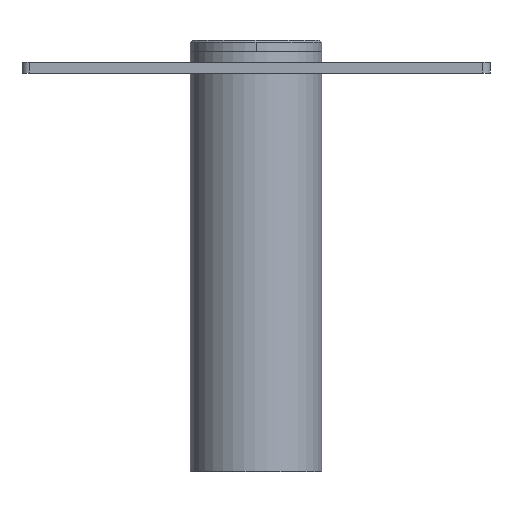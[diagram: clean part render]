
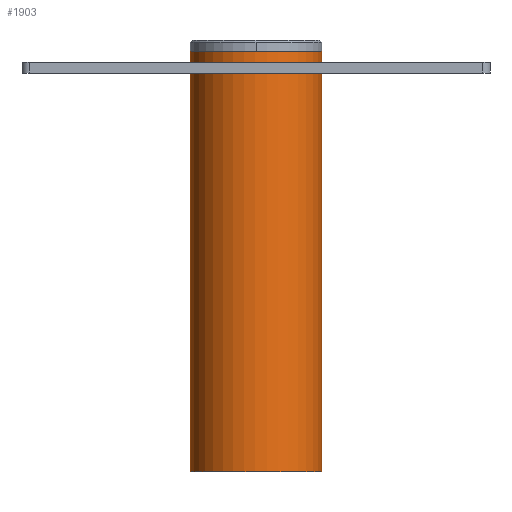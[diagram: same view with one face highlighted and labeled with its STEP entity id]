
A CAD part, left-side view. The second image highlights one B-rep face of the part: STEP entity #1903.
In plain terms, the highlighted cylindrical face has radius 57.15 mm (diameter 114.3 mm), a partial arc.
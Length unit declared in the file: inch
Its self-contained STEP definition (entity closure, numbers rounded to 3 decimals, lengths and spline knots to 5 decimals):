
#98 = VERTEX_POINT ( 'NONE', #2390 ) ;
#175 = EDGE_CURVE ( 'NONE', #382, #937, #2397, .T. ) ;
#216 = CARTESIAN_POINT ( 'NONE',  ( 0., 14.375, 0. ) ) ;
#234 = CARTESIAN_POINT ( 'NONE',  ( 0., 14.375, -2.25 ) ) ;
#382 = VERTEX_POINT ( 'NONE', #2285 ) ;
#458 = AXIS2_PLACEMENT_3D ( 'NONE', #2424, #1976, #2362 ) ;
#563 = AXIS2_PLACEMENT_3D ( 'NONE', #1654, #656, #1416 ) ;
#572 = ORIENTED_EDGE ( 'NONE', *, *, #2169, .F. ) ;
#656 = DIRECTION ( 'NONE',  ( 0., 1., 0. ) ) ;
#899 = EDGE_CURVE ( 'NONE', #2348, #382, #1629, .T. ) ;
#937 = VERTEX_POINT ( 'NONE', #2439 ) ;
#978 = DIRECTION ( 'NONE',  ( 0., -1., 0. ) ) ;
#979 = ORIENTED_EDGE ( 'NONE', *, *, #175, .T. ) ;
#1166 = DIRECTION ( 'NONE',  ( 0., 1., 0. ) ) ;
#1198 = EDGE_LOOP ( 'NONE', ( #572, #2467, #2374, #979 ) ) ;
#1247 = CARTESIAN_POINT ( 'NONE',  ( 0., 14.375, -2.25 ) ) ;
#1416 = DIRECTION ( 'NONE',  ( 0., 0., 1. ) ) ;
#1564 = DIRECTION ( 'NONE',  ( 0., 0., 1. ) ) ;
#1629 = LINE ( 'NONE', #1247, #1958 ) ;
#1654 = CARTESIAN_POINT ( 'NONE',  ( 0., 0., 0. ) ) ;
#1755 = LINE ( 'NONE', #2112, #2229 ) ;
#1903 = ADVANCED_FACE ( 'NONE', ( #2028 ), #2045, .T. ) ;
#1958 = VECTOR ( 'NONE', #2250, 39.37008 ) ;
#1976 = DIRECTION ( 'NONE',  ( 0., -1., 0. ) ) ;
#2025 = AXIS2_PLACEMENT_3D ( 'NONE', #216, #1166, #1564 ) ;
#2028 = FACE_OUTER_BOUND ( 'NONE', #1198, .T. ) ;
#2045 = CYLINDRICAL_SURFACE ( 'NONE', #458, 2.25 ) ;
#2112 = CARTESIAN_POINT ( 'NONE',  ( 0., 14.375, 2.25 ) ) ;
#2164 = EDGE_CURVE ( 'NONE', #2348, #98, #2347, .T. ) ;
#2169 = EDGE_CURVE ( 'NONE', #98, #937, #1755, .T. ) ;
#2229 = VECTOR ( 'NONE', #978, 39.37008 ) ;
#2250 = DIRECTION ( 'NONE',  ( 0., -1., 0. ) ) ;
#2285 = CARTESIAN_POINT ( 'NONE',  ( 0., 0., -2.25 ) ) ;
#2347 = CIRCLE ( 'NONE', #2025, 2.25 ) ;
#2348 = VERTEX_POINT ( 'NONE', #234 ) ;
#2362 = DIRECTION ( 'NONE',  ( 0., 0., -1. ) ) ;
#2374 = ORIENTED_EDGE ( 'NONE', *, *, #899, .T. ) ;
#2390 = CARTESIAN_POINT ( 'NONE',  ( 0., 14.375, 2.25 ) ) ;
#2397 = CIRCLE ( 'NONE', #563, 2.25 ) ;
#2424 = CARTESIAN_POINT ( 'NONE',  ( 0., 14.375, 0. ) ) ;
#2439 = CARTESIAN_POINT ( 'NONE',  ( 0., 0., 2.25 ) ) ;
#2467 = ORIENTED_EDGE ( 'NONE', *, *, #2164, .F. ) ;
